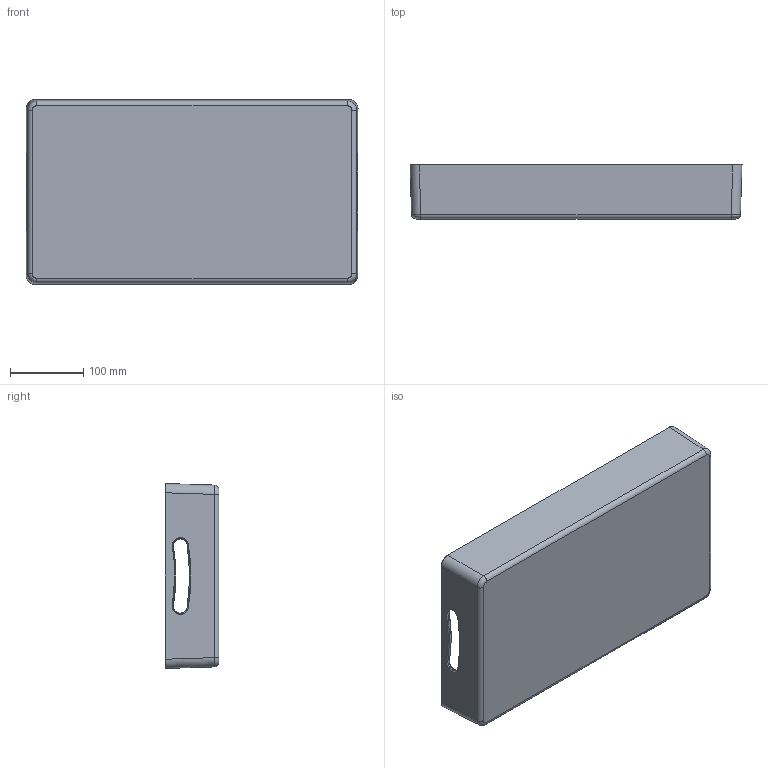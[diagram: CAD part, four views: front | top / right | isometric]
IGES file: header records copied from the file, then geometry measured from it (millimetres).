
Start section: SolidWorks IGES file using analytic representation for surfaces
Global section: file name: C:\working\0450 GMTK\0450 Case, Tray, OEM.IGS; native system: SolidWorks 2007; preprocessor: SolidWorks 2007; author: darato; date: 090129.165942; units: inch
Bounding box: 454.72 x 73.66 x 253.3 mm (x, y, z)
Surface area: 409327.3 mm2 (no closed solid volume)
Topology: 0 solids, 0 shells, 65 faces, 690 edges, 690 vertices
Faces by surface type: bspline 35, revolution 30
